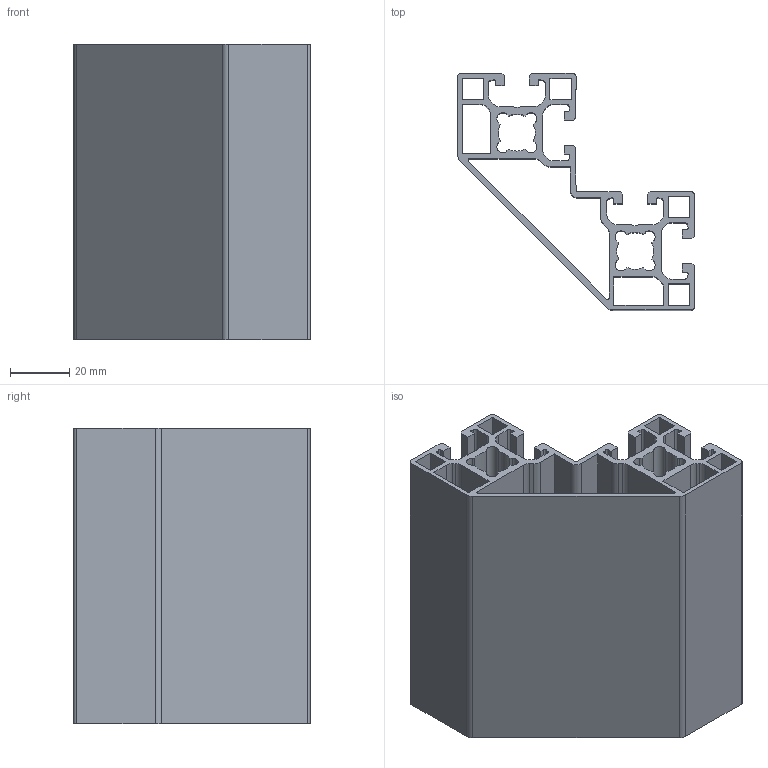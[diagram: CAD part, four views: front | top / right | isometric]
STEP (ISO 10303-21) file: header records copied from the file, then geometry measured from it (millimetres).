
FILE_DESCRIPTION((''),'2;1');
FILE_NAME('C:\Users\de2afr0\Desktop\New folder\MS40+ B 80x80 - 90.stp','2014-02-28T13:12:05',('de2afr0'),(''),'Autodesk Inventor 2011','Autodesk Inventor 2011','');
FILE_SCHEMA(('AUTOMOTIVE_DESIGN { 1 0 10303 214 1 1 1 1 }'));
Length unit declared in the file: millimetre
Products named in the file (1): MB01160201
Bounding box: 80 x 80 x 100 mm (x, y, z)
Volume: 100877 mm3; surface area: 97478.5 mm2
Topology: 1 solids, 1 shells, 194 faces, 576 edges, 384 vertices
Faces by surface type: plane 126, cylinder 68
Entity records: 6558 total; most frequent: CARTESIAN_POINT 1155, ORIENTED_EDGE 1152, DIRECTION 1102, EDGE_CURVE 576, VECTOR 440, LINE 440, VERTEX_POINT 384, AXIS2_PLACEMENT_3D 331
